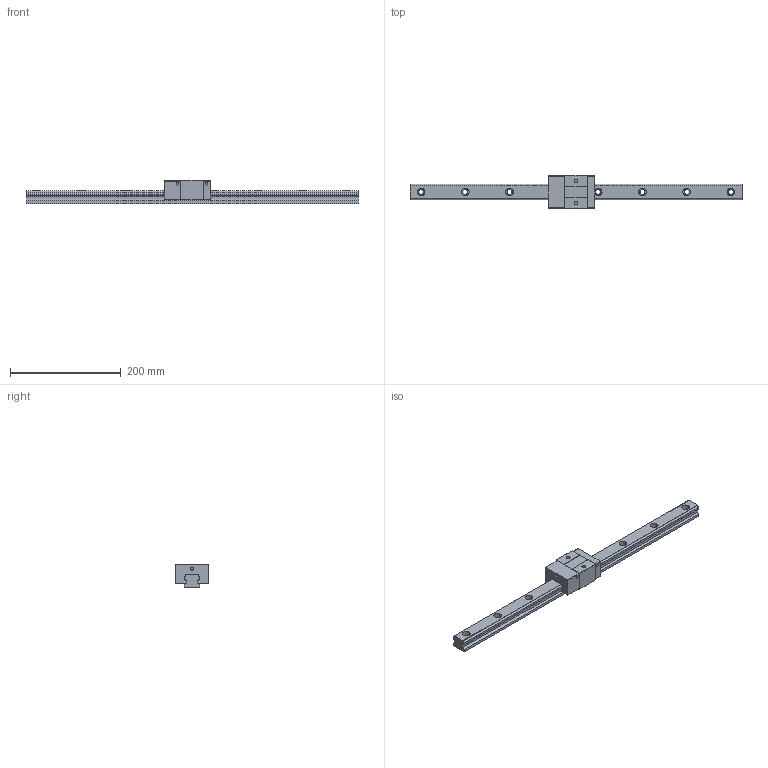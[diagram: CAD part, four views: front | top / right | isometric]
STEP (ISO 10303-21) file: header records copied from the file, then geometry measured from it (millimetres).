
FILE_DESCRIPTION (( 'STEP AP203' ), '1' );
FILE_NAME ('TRS30VS-BN.STEP', '2024-07-12T01:16:00', ( '' ), ( '' ), 'SwSTEP 2.0', 'SolidWorks 2022', '' );
FILE_SCHEMA (( 'CONFIG_CONTROL_DESIGN' ));
Length unit declared in the file: millimetre
Products named in the file (1): TRS30VS-BN
Bounding box: 600 x 60 x 42 mm (x, y, z)
Volume: 459169.3 mm3; surface area: 93072.1 mm2
Topology: 2 solids, 2 shells, 172 faces, 452 edges, 300 vertices
Faces by surface type: plane 88, cylinder 84
Entity records: 5459 total; most frequent: DIRECTION 966, CARTESIAN_POINT 925, ORIENTED_EDGE 904, EDGE_CURVE 452, AXIS2_PLACEMENT_3D 341, VERTEX_POINT 300, LINE 284, VECTOR 284
